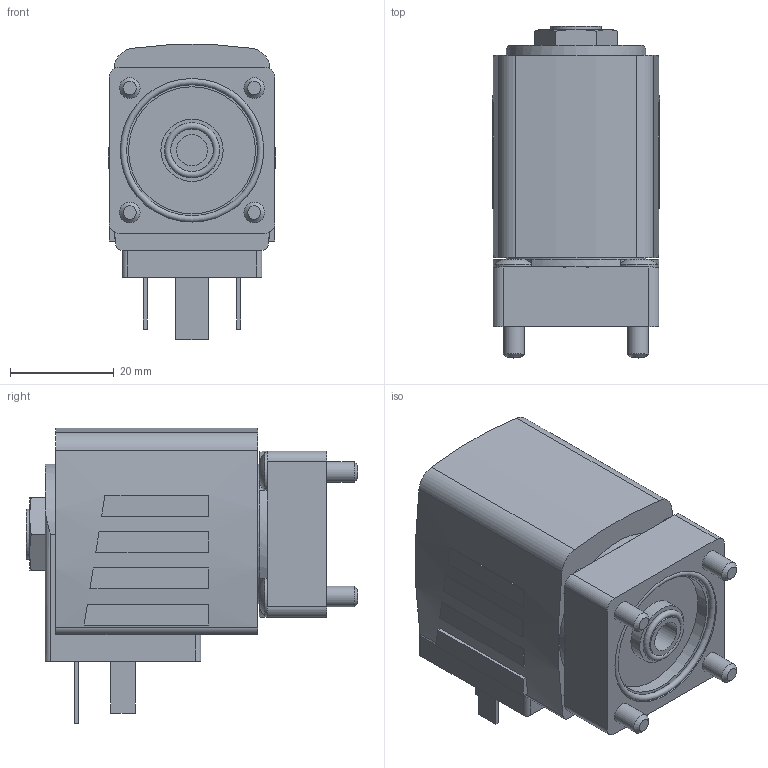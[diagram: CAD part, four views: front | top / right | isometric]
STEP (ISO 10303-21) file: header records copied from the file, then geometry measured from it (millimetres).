
FILE_DESCRIPTION(/* description */ ('STEP AP214'),/* implementation_level */ '2;1');
FILE_NAME(/* name */ '6240-340449-2_2-way_solenoid_valve__pilot-controlled',/* time_stamp */ '2024-05-07T21:21:38+02:00',/* author */ ('License CC BY-ND 4.0'),/* organization */ ('CADENAS'),/* preprocessor_version */ 'ST-DEVELOPER v19.3',/* originating_system */ 'PARTsolutions',/* authorisation */ ' ');
FILE_SCHEMA (('AUTOMOTIVE_DESIGN {1 0 10303 214 3 1 1}'));
Length unit declared in the file: millimetre
Products named in the file (3): 6240-340449-2/2-way solenoid valve, pilot-controlled; 6240-Gehaeuse-2/2-Wege-Magnetventil, vorgesteuert FK01FK016VA; AC10ex-5NA38-Plan-Coil
Assembly tree (2 placements, depth 2):
  6240-340449-2/2-way solenoid valve, pilot-controlled
    6240-Gehaeuse-2/2-Wege-Magnetventil, vorgesteuert FK01FK016VA
    AC10ex-5NA38-Plan-Coil
Bounding box: 32.32 x 64 x 56.91 mm (x, y, z)
Volume: 66042.4 mm3; surface area: 14016.2 mm2
Topology: 2 solids, 4 shells, 166 faces, 382 edges, 249 vertices
Faces by surface type: plane 105, cylinder 42, cone 11, torus 8
Full cylindrical faces by diameter (mm): 2.013 x1, 4 x4, 6 x1, 7.5 x4, 8.2 x2, 9.74 x1, 12 x1, 24.5 x1, 27 x1, 27.7 x2
Entity records: 5737 total; most frequent: CARTESIAN_POINT 805, DIRECTION 802, ORIENTED_EDGE 688, EDGE_CURVE 344, AXIS2_PLACEMENT_3D 305, VERTEX_POINT 242, EDGE_LOOP 226, FACE_BOUND 226
